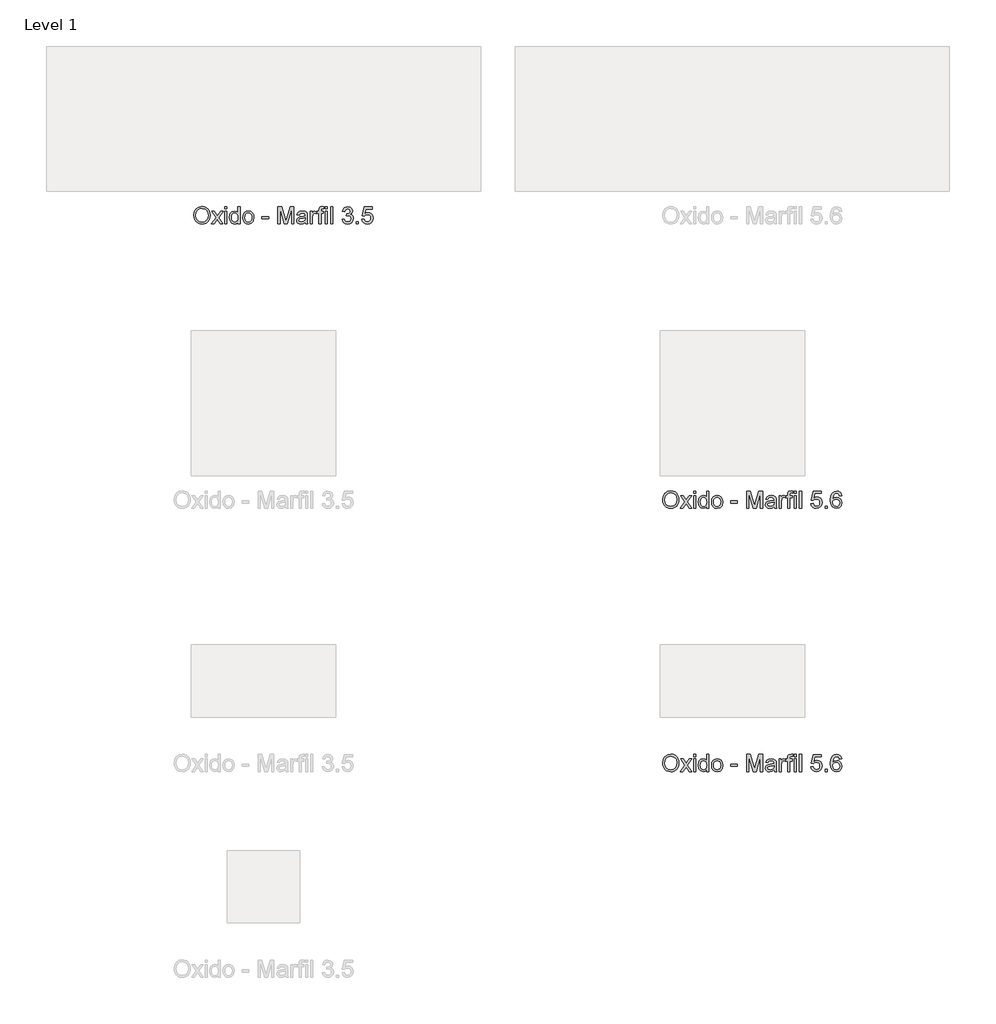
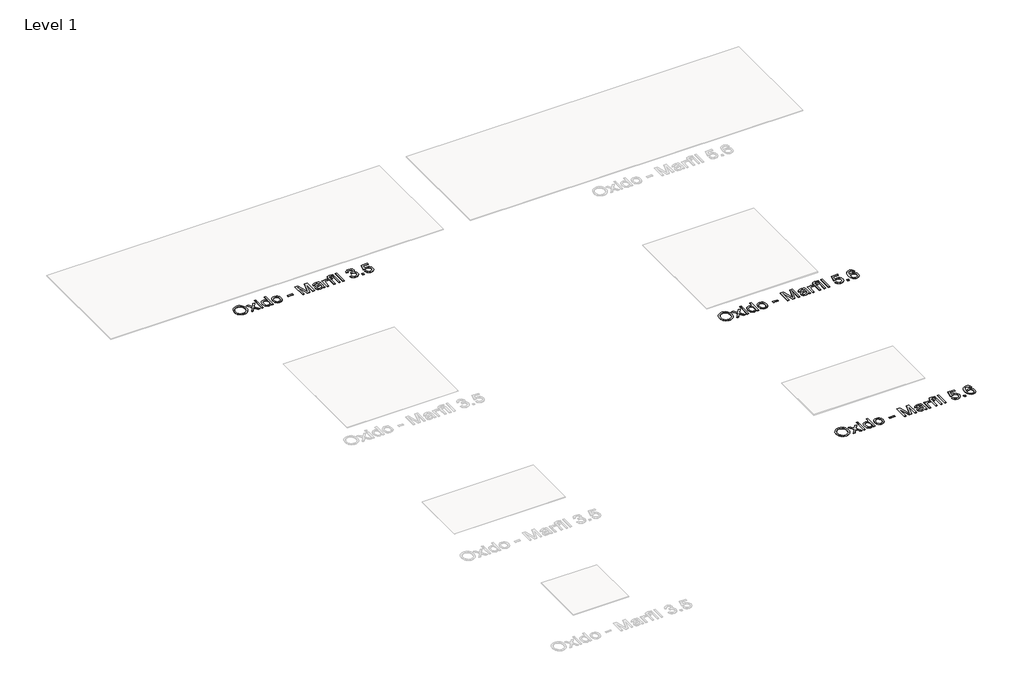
# One storey, part 30 of 80: 3 proxies.
"""IFC4 building model written with IfcOpenShell, lengths in millimetres."""

from ifc_helpers import new_model, si_unit, origin, origin_with_axes, place, context, project, spatial, polyline, outline, extrude, element, save

model = new_model("IFC4")

# Units and contexts
model_context = context("Model", 3, world=origin())
ifc_project = project(units=[si_unit("LENGTHUNIT", "METRE", prefix="MILLI")], contexts=[model_context])

# Site, building, storey
site = spatial("IfcSite", under=ifc_project)
building = spatial("IfcBuilding", under=site)
storey = spatial("IfcBuildingStorey", under=building, Name="Level 1", Elevation=0.0)

# Proxies
placement = place(None, origin())
element("IfcBuildingElementProxy", 1, Name="24\" Arial", ObjectType="24\" Arial", at=placement, inside=storey, context=model_context, shape_type="SweptSolid", body=[
    extrude(outline(polyline([(5052.6161998, -16597.3504862), (5056.5536998, -16571.2230824), (5068.3661998, -16551.4562555), (5086.4022575, -16539.0163516), (5109.0104306, -16534.869717), (5124.5080267, -16536.8168324), (5138.4046613, -16542.6581785), (5149.9431229, -16551.9826978), (5158.3661998, -16564.3793324), (5163.5152383, -16579.2495247), (5165.2315844, -16595.994717), (5163.425094, -16612.963467), (5158.0056229, -16628.0427939), (5149.2724498, -16640.4610632), (5137.5248536, -16649.4466401), (5123.7472094, -16654.8985632), (5108.9238921, -16656.7158709), (5093.1883152, -16654.7074574), (5079.2123536, -16648.682217), (5067.7027383, -16639.1846209), (5059.3661998, -16626.7591401), (5054.3036998, -16612.4622651), (5052.6161998, -16597.3504862)]), holes=[polyline([(5067.3854306, -16597.494717), (5070.3385556, -16615.9778901), (5079.1979306, -16630.0620247), (5092.5140363, -16638.9754862), (5108.8373536, -16641.9466401), (5125.3986517, -16638.9466401), (5138.7363921, -16629.9466401), (5147.5308633, -16615.4298132), (5150.4623536, -16595.8793324), (5145.4431229, -16571.5043324), (5139.2664402, -16562.2627459), (5130.7748536, -16555.3649093), (5109.096969, -16549.6389478), (5093.2099498, -16552.3973612), (5079.7027383, -16560.6726016), (5070.4647575, -16575.3949574), (5067.3854306, -16597.494717)])]), origin_with_axes(), (0.0, 0.0, 1.0), 2.0),
    extrude(outline(polyline([(5174.4623536, -16654.869717), (5206.0200459, -16611.2543324), (5176.3085075, -16568.1004862), (5194.0777383, -16568.1004862), (5208.4142767, -16588.869717), (5215.1065844, -16598.6774093), (5220.9046613, -16590.6581785), (5237.2315844, -16568.1004862), (5255.0008152, -16568.1004862), (5223.7892767, -16611.2543324), (5253.846969, -16654.869717), (5236.0777383, -16654.869717), (5217.9911998, -16628.6485632), (5214.6738921, -16623.8601016), (5192.2315844, -16654.869717), (5174.4623536, -16654.869717)])), origin_with_axes(), (0.0, 0.0, 1.0), 2.0),
    extrude(outline(polyline([(5266.7700459, -16551.4851016), (5266.7700459, -16536.7158709), (5281.5392767, -16536.7158709), (5281.5392767, -16551.4851016), (5266.7700459, -16551.4851016)])), origin_with_axes(), (0.0, 0.0, 1.0), 2.0),
    extrude(outline(polyline([(5266.7700459, -16654.869717), (5266.7700459, -16568.1004862), (5281.5392767, -16568.1004862), (5281.5392767, -16654.869717), (5266.7700459, -16654.869717)])), origin_with_axes(), (0.0, 0.0, 1.0), 2.0),
    extrude(outline(polyline([(5357.2315844, -16654.869717), (5357.2315844, -16640.9370247), (5347.4599498, -16652.7711593), (5333.9527383, -16656.7158709), (5315.6642767, -16651.0043324), (5302.7411998, -16635.0668324), (5298.1546613, -16611.5716401), (5302.3806229, -16588.0620247), (5307.659469, -16578.7375055), (5315.0440844, -16571.8793324), (5333.8950459, -16566.2543324), (5347.5104306, -16570.2783709), (5357.2315844, -16580.7351016), (5357.2315844, -16536.7158709), (5372.0008152, -16536.7158709), (5372.0008152, -16654.869717), (5357.2315844, -16654.869717)]), holes=[polyline([(5312.9238921, -16611.5139478), (5314.5897575, -16624.8733228), (5319.5873536, -16634.3745247), (5326.8493729, -16640.0536112), (5335.3085075, -16641.9466401), (5343.7640363, -16640.1401497), (5350.8421613, -16634.7206785), (5355.6342286, -16625.5872651), (5357.2315844, -16612.6389478), (5355.6053825, -16598.4826978), (5350.7267767, -16588.6677939), (5343.4683633, -16582.9346209), (5334.7027383, -16581.0235632), (5326.1570652, -16582.8588997), (5319.1546613, -16588.3649093), (5314.4815844, -16597.822842), (5312.9238921, -16611.5139478)])]), origin_with_axes(), (0.0, 0.0, 1.0), 2.0),
    extrude(outline(polyline([(5390.4623536, -16611.4851016), (5393.6570652, -16590.5644285), (5403.2411998, -16575.8601016), (5415.0825459, -16568.6557747), (5429.2604306, -16566.2543324), (5444.7760556, -16569.1786112), (5457.1690844, -16577.9514478), (5465.2928825, -16591.8805343), (5468.0008152, -16610.2735632), (5463.2123536, -16636.5524093), (5449.2652383, -16651.4226016), (5429.2604306, -16656.7158709), (5413.5573056, -16653.8024093), (5401.1786998, -16645.0620247), (5393.1414402, -16630.8408709), (5390.4623536, -16611.4851016)]), holes=[polyline([(5405.2315844, -16611.4562555), (5406.940719, -16624.822842), (5412.0681229, -16634.3456785), (5419.784469, -16640.0463997), (5429.2604306, -16641.9466401), (5438.6931229, -16640.0355824), (5446.3950459, -16634.3024093), (5451.5224498, -16624.6533709), (5453.2315844, -16610.994717), (5451.5116325, -16598.0175535), (5446.3517767, -16588.6245247), (5438.6390363, -16582.9238035), (5429.2604306, -16581.0235632), (5419.784469, -16582.916592), (5412.0681229, -16588.5956785), (5406.940719, -16598.0968805), (5405.2315844, -16611.4562555)])]), origin_with_axes(), (0.0, 0.0, 1.0), 2.0),
    extrude(outline(polyline([(5523.3854306, -16619.7927939), (5523.3854306, -16605.0235632), (5569.5392767, -16605.0235632), (5569.5392767, -16619.7927939), (5523.3854306, -16619.7927939)])), origin_with_axes(), (0.0, 0.0, 1.0), 2.0),
    extrude(outline(polyline([(5634.1546613, -16654.869717), (5634.1546613, -16536.7158709), (5659.5681229, -16536.7158709), (5683.7411998, -16619.994717), (5688.6161998, -16637.3889478), (5693.8950459, -16618.5524093), (5717.6642767, -16536.7158709), (5743.0777383, -16536.7158709), (5743.0777383, -16654.869717), (5728.3085075, -16654.869717), (5728.3085075, -16551.4851016), (5698.6258152, -16654.869717), (5678.6065844, -16654.869717), (5648.9238921, -16551.4851016), (5648.9238921, -16654.869717), (5634.1546613, -16654.869717)])), origin_with_axes(), (0.0, 0.0, 1.0), 2.0),
    extrude(outline(polyline([(5822.4623536, -16643.7927939), (5808.1402383, -16653.8024093), (5792.3181229, -16656.7158709), (5779.9755748, -16654.963467), (5770.8710075, -16649.7062555), (5765.2568248, -16641.7230824), (5763.3854306, -16631.7927939), (5766.2123536, -16620.1101016), (5773.6402383, -16611.6293324), (5783.9815844, -16606.7831785), (5796.7604306, -16604.5620247), (5822.3758152, -16599.4851016), (5822.4623536, -16596.1966401), (5818.3950459, -16585.2927939), (5802.0681229, -16581.0235632), (5787.1258152, -16583.8649093), (5780.0008152, -16593.9466401), (5765.2315844, -16592.1004862), (5771.6210075, -16577.6774093), (5784.4863921, -16569.2254862), (5803.971969, -16566.2543324), (5821.8710075, -16568.8793324), (5831.9815844, -16575.4706785), (5836.5104306, -16585.494717), (5837.2315844, -16598.4177939), (5837.2315844, -16616.7927939), (5837.9815844, -16642.4514478), (5840.9238921, -16654.869717), (5826.1546613, -16654.869717), (5822.4623536, -16643.7927939)]), holes=[polyline([(5822.4623536, -16614.2543324), (5798.6354306, -16618.7831785), (5785.9286998, -16621.1774093), (5780.1738921, -16625.0716401), (5778.1546613, -16630.7543324), (5782.5536998, -16638.744717), (5795.4623536, -16641.9466401), (5810.4046613, -16638.4129862), (5820.0392767, -16629.8601016), (5822.3758152, -16618.4370247), (5822.4623536, -16614.2543324)])]), origin_with_axes(), (0.0, 0.0, 1.0), 2.0),
    extrude(outline(polyline([(5857.5392767, -16654.869717), (5857.5392767, -16568.1004862), (5870.4623536, -16568.1004862), (5870.4623536, -16580.9370247), (5879.6354306, -16569.1101016), (5888.8661998, -16566.2543324), (5903.6931229, -16570.8120247), (5898.7604306, -16584.0524093), (5888.3758152, -16581.0235632), (5880.0248536, -16583.9370247), (5874.7027383, -16592.0139478), (5872.3085075, -16609.2639478), (5872.3085075, -16654.869717), (5857.5392767, -16654.869717)])), origin_with_axes(), (0.0, 0.0, 1.0), 2.0),
    extrude(outline(polyline([(5916.6161998, -16654.869717), (5916.6161998, -16582.869717), (5903.6931229, -16582.869717), (5903.6931229, -16568.1004862), (5916.6161998, -16568.1004862), (5916.6161998, -16559.3601016), (5918.1738921, -16547.0427939), (5925.7315844, -16538.244717), (5940.6161998, -16534.869717), (5954.0873536, -16536.4851016), (5951.9238921, -16550.3312555), (5943.4142767, -16549.6389478), (5934.1113921, -16552.0908709), (5931.3854306, -16561.2351016), (5931.3854306, -16568.1004862), (5948.0008152, -16568.1004862), (5948.0008152, -16582.869717), (5931.3854306, -16582.869717), (5931.3854306, -16654.869717), (5916.6161998, -16654.869717)])), origin_with_axes(), (0.0, 0.0, 1.0), 2.0),
    extrude(outline(polyline([(5960.9238921, -16551.4851016), (5960.9238921, -16536.7158709), (5975.6931229, -16536.7158709), (5975.6931229, -16551.4851016), (5960.9238921, -16551.4851016)])), origin_with_axes(), (0.0, 0.0, 1.0), 2.0),
    extrude(outline(polyline([(5960.9238921, -16654.869717), (5960.9238921, -16568.1004862), (5975.6931229, -16568.1004862), (5975.6931229, -16654.869717), (5960.9238921, -16654.869717)])), origin_with_axes(), (0.0, 0.0, 1.0), 2.0),
    extrude(outline(polyline([(5997.846969, -16654.869717), (5997.846969, -16536.7158709), (6012.6161998, -16536.7158709), (6012.6161998, -16654.869717), (5997.846969, -16654.869717)])), origin_with_axes(), (0.0, 0.0, 1.0), 2.0),
    extrude(outline(polyline([(6077.2315844, -16623.4851016), (6092.0008152, -16621.6389478), (6100.1498536, -16637.1870247), (6115.3950459, -16641.9466401), (6125.5200459, -16640.3096209), (6133.3373536, -16635.3985632), (6138.3349498, -16628.0716401), (6140.0008152, -16619.1870247), (6138.3493729, -16610.7531305), (6133.3950459, -16603.9129862), (6125.8950459, -16599.3805343), (6116.6065844, -16597.869717), (6106.2508152, -16599.4851016), (6107.8950459, -16584.7158709), (6110.2604306, -16584.8889478), (6127.0200459, -16580.6485632), (6132.6017767, -16575.2687555), (6134.4623536, -16567.6101016), (6129.0681229, -16556.057217), (6115.1642767, -16551.4851016), (6101.0873536, -16556.1004862), (6093.846969, -16569.9466401), (6079.0777383, -16568.1004862), (6083.4262959, -16554.838467), (6091.1642767, -16544.9370247), (6101.7508152, -16538.7711593), (6114.6450459, -16536.7158709), (6132.4575459, -16540.7687555), (6144.9190844, -16551.8456785), (6149.2315844, -16566.744717), (6145.1354306, -16580.3601016), (6133.0200459, -16590.1389478), (6142.2652383, -16593.8745247), (6149.1161998, -16600.2351016), (6153.3565844, -16608.8745247), (6154.7700459, -16619.4466401), (6151.9431229, -16633.8408709), (6143.4623536, -16645.869717), (6130.6618729, -16654.0043324), (6114.8758152, -16656.7158709), (6100.596969, -16654.400967), (6088.971969, -16647.4562555), (6080.8878344, -16636.8336593), (6077.2315844, -16623.4851016)])), origin_with_axes(), (0.0, 0.0, 1.0), 2.0),
    extrude(outline(polyline([(6175.0777383, -16654.869717), (6175.0777383, -16640.1004862), (6189.846969, -16640.1004862), (6189.846969, -16654.869717), (6175.0777383, -16654.869717)])), origin_with_axes(), (0.0, 0.0, 1.0), 2.0),
    extrude(outline(polyline([(6213.846969, -16623.4851016), (6228.6161998, -16621.6389478), (6236.0585075, -16636.8552939), (6251.4911998, -16641.9466401), (6262.0777383, -16640.1762074), (6270.0104306, -16634.8649093), (6274.9647575, -16626.6257266), (6276.6161998, -16616.0716401), (6275.0693248, -16606.1341401), (6270.4286998, -16598.5331785), (6262.6582671, -16593.7086593), (6251.721969, -16592.1004862), (6238.7556229, -16594.6677939), (6230.4623536, -16601.3312555), (6215.6931229, -16599.4851016), (6228.6161998, -16538.5620247), (6285.846969, -16538.5620247), (6285.846969, -16553.3312555), (6240.5585075, -16553.3312555), (6234.2411998, -16585.869717), (6244.7916806, -16579.4658709), (6255.846969, -16577.3312555), (6269.6462479, -16579.9778901), (6281.1017767, -16587.9177939), (6288.8145171, -16600.0187555), (6291.3854306, -16615.1485632), (6289.0705267, -16629.9177939), (6282.1258152, -16642.5524093), (6268.8277383, -16653.1750055), (6251.4335075, -16656.7158709), (6236.9274979, -16654.4406305), (6225.3710075, -16647.6149093), (6217.4491325, -16637.0319766), (6213.846969, -16623.4851016)])), origin_with_axes(), (0.0, 0.0, 1.0), 2.0),
])
element("IfcBuildingElementProxy", 2, Name="24\" Arial", ObjectType="24\" Arial", at=placement, inside=storey, context=model_context, shape_type="SweptSolid", body=[
    extrude(outline(polyline([(8292.6161998, -18562.677529), (8296.5536998, -18536.5501252), (8308.3661998, -18516.7832983), (8326.4022575, -18504.3433944), (8349.0104306, -18500.1967598), (8364.5080267, -18502.1438752), (8378.4046613, -18507.9852213), (8389.9431229, -18517.3097406), (8398.3661998, -18529.7063752), (8403.5152383, -18544.5765675), (8405.2315844, -18561.3217598), (8403.425094, -18578.2905098), (8398.0056229, -18593.3698367), (8389.2724498, -18605.788106), (8377.5248536, -18614.7736829), (8363.7472094, -18620.225606), (8348.9238921, -18622.0429137), (8333.1883152, -18620.0345002), (8319.2123536, -18614.0092598), (8307.7027383, -18604.5116637), (8299.3661998, -18592.0861829), (8294.3036998, -18577.7893079), (8292.6161998, -18562.677529)]), holes=[polyline([(8307.3854306, -18562.8217598), (8310.3385556, -18581.3049329), (8319.1979306, -18595.3890675), (8332.5140363, -18604.302529), (8348.8373536, -18607.2736829), (8365.3986517, -18604.2736829), (8378.7363921, -18595.2736829), (8387.5308633, -18580.756856), (8390.4623536, -18561.2063752), (8385.4431229, -18536.8313752), (8379.2664402, -18527.5897887), (8370.7748536, -18520.6919521), (8349.096969, -18514.9659906), (8333.2099498, -18517.724404), (8319.7027383, -18525.9996444), (8310.4647575, -18540.7220002), (8307.3854306, -18562.8217598)])]), origin_with_axes(), (0.0, 0.0, 1.0), 2.0),
    extrude(outline(polyline([(8414.4623536, -18620.1967598), (8446.0200459, -18576.5813752), (8416.3085075, -18533.427529), (8434.0777383, -18533.427529), (8448.4142767, -18554.1967598), (8455.1065844, -18564.0044521), (8460.9046613, -18555.9852213), (8477.2315844, -18533.427529), (8495.0008152, -18533.427529), (8463.7892767, -18576.5813752), (8493.846969, -18620.1967598), (8476.0777383, -18620.1967598), (8457.9911998, -18593.975606), (8454.6738921, -18589.1871444), (8432.2315844, -18620.1967598), (8414.4623536, -18620.1967598)])), origin_with_axes(), (0.0, 0.0, 1.0), 2.0),
    extrude(outline(polyline([(8506.7700459, -18516.8121444), (8506.7700459, -18502.0429137), (8521.5392767, -18502.0429137), (8521.5392767, -18516.8121444), (8506.7700459, -18516.8121444)])), origin_with_axes(), (0.0, 0.0, 1.0), 2.0),
    extrude(outline(polyline([(8506.7700459, -18620.1967598), (8506.7700459, -18533.427529), (8521.5392767, -18533.427529), (8521.5392767, -18620.1967598), (8506.7700459, -18620.1967598)])), origin_with_axes(), (0.0, 0.0, 1.0), 2.0),
    extrude(outline(polyline([(8597.2315844, -18620.1967598), (8597.2315844, -18606.2640675), (8587.4599498, -18618.0982021), (8573.9527383, -18622.0429137), (8555.6642767, -18616.3313752), (8542.7411998, -18600.3938752), (8538.1546613, -18576.8986829), (8542.3806229, -18553.3890675), (8547.659469, -18544.0645483), (8555.0440844, -18537.2063752), (8573.8950459, -18531.5813752), (8587.5104306, -18535.6054137), (8597.2315844, -18546.0621444), (8597.2315844, -18502.0429137), (8612.0008152, -18502.0429137), (8612.0008152, -18620.1967598), (8597.2315844, -18620.1967598)]), holes=[polyline([(8552.9238921, -18576.8409906), (8554.5897575, -18590.2003656), (8559.5873536, -18599.7015675), (8566.8493729, -18605.380654), (8575.3085075, -18607.2736829), (8583.7640363, -18605.4671925), (8590.8421613, -18600.0477213), (8595.6342286, -18590.9143079), (8597.2315844, -18577.9659906), (8595.6053825, -18563.8097406), (8590.7267767, -18553.9948367), (8583.4683633, -18548.2616637), (8574.7027383, -18546.350606), (8566.1570652, -18548.1859425), (8559.1546613, -18553.6919521), (8554.4815844, -18563.1498848), (8552.9238921, -18576.8409906)])]), origin_with_axes(), (0.0, 0.0, 1.0), 2.0),
    extrude(outline(polyline([(8630.4623536, -18576.8121444), (8633.6570652, -18555.8914713), (8643.2411998, -18541.1871444), (8655.0825459, -18533.9828175), (8669.2604306, -18531.5813752), (8684.7760556, -18534.505654), (8697.1690844, -18543.2784906), (8705.2928825, -18557.2075771), (8708.0008152, -18575.600606), (8703.2123536, -18601.8794521), (8689.2652383, -18616.7496444), (8669.2604306, -18622.0429137), (8653.5573056, -18619.1294521), (8641.1786998, -18610.3890675), (8633.1414402, -18596.1679137), (8630.4623536, -18576.8121444)]), holes=[polyline([(8645.2315844, -18576.7832983), (8646.940719, -18590.1498848), (8652.0681229, -18599.6727213), (8659.784469, -18605.3734425), (8669.2604306, -18607.2736829), (8678.6931229, -18605.3626252), (8686.3950459, -18599.6294521), (8691.5224498, -18589.9804137), (8693.2315844, -18576.3217598), (8691.5116325, -18563.3445963), (8686.3517767, -18553.9515675), (8678.6390363, -18548.2508463), (8669.2604306, -18546.350606), (8659.784469, -18548.2436348), (8652.0681229, -18553.9227213), (8646.940719, -18563.4239233), (8645.2315844, -18576.7832983)])]), origin_with_axes(), (0.0, 0.0, 1.0), 2.0),
    extrude(outline(polyline([(8763.3854306, -18585.1198367), (8763.3854306, -18570.350606), (8809.5392767, -18570.350606), (8809.5392767, -18585.1198367), (8763.3854306, -18585.1198367)])), origin_with_axes(), (0.0, 0.0, 1.0), 2.0),
    extrude(outline(polyline([(8874.1546613, -18620.1967598), (8874.1546613, -18502.0429137), (8899.5681229, -18502.0429137), (8923.7411998, -18585.3217598), (8928.6161998, -18602.7159906), (8933.8950459, -18583.8794521), (8957.6642767, -18502.0429137), (8983.0777383, -18502.0429137), (8983.0777383, -18620.1967598), (8968.3085075, -18620.1967598), (8968.3085075, -18516.8121444), (8938.6258152, -18620.1967598), (8918.6065844, -18620.1967598), (8888.9238921, -18516.8121444), (8888.9238921, -18620.1967598), (8874.1546613, -18620.1967598)])), origin_with_axes(), (0.0, 0.0, 1.0), 2.0),
    extrude(outline(polyline([(9062.4623536, -18609.1198367), (9048.1402383, -18619.1294521), (9032.3181229, -18622.0429137), (9019.9755748, -18620.2905098), (9010.8710075, -18615.0332983), (9005.2568248, -18607.0501252), (9003.3854306, -18597.1198367), (9006.2123536, -18585.4371444), (9013.6402383, -18576.9563752), (9023.9815844, -18572.1102213), (9036.7604306, -18569.8890675), (9062.3758152, -18564.8121444), (9062.4623536, -18561.5236829), (9058.3950459, -18550.6198367), (9042.0681229, -18546.350606), (9027.1258152, -18549.1919521), (9020.0008152, -18559.2736829), (9005.2315844, -18557.427529), (9011.6210075, -18543.0044521), (9024.4863921, -18534.552529), (9043.971969, -18531.5813752), (9061.8710075, -18534.2063752), (9071.9815844, -18540.7977213), (9076.5104306, -18550.8217598), (9077.2315844, -18563.7448367), (9077.2315844, -18582.1198367), (9077.9815844, -18607.7784906), (9080.9238921, -18620.1967598), (9066.1546613, -18620.1967598), (9062.4623536, -18609.1198367)]), holes=[polyline([(9062.4623536, -18579.5813752), (9038.6354306, -18584.1102213), (9025.9286998, -18586.5044521), (9020.1738921, -18590.3986829), (9018.1546613, -18596.0813752), (9022.5536998, -18604.0717598), (9035.4623536, -18607.2736829), (9050.4046613, -18603.740029), (9060.0392767, -18595.1871444), (9062.3758152, -18583.7640675), (9062.4623536, -18579.5813752)])]), origin_with_axes(), (0.0, 0.0, 1.0), 2.0),
    extrude(outline(polyline([(9097.5392767, -18620.1967598), (9097.5392767, -18533.427529), (9110.4623536, -18533.427529), (9110.4623536, -18546.2640675), (9119.6354306, -18534.4371444), (9128.8661998, -18531.5813752), (9143.6931229, -18536.1390675), (9138.7604306, -18549.3794521), (9128.3758152, -18546.350606), (9120.0248536, -18549.2640675), (9114.7027383, -18557.3409906), (9112.3085075, -18574.5909906), (9112.3085075, -18620.1967598), (9097.5392767, -18620.1967598)])), origin_with_axes(), (0.0, 0.0, 1.0), 2.0),
    extrude(outline(polyline([(9156.6161998, -18620.1967598), (9156.6161998, -18548.1967598), (9143.6931229, -18548.1967598), (9143.6931229, -18533.427529), (9156.6161998, -18533.427529), (9156.6161998, -18524.6871444), (9158.1738921, -18512.3698367), (9165.7315844, -18503.5717598), (9180.6161998, -18500.1967598), (9194.0873536, -18501.8121444), (9191.9238921, -18515.6582983), (9183.4142767, -18514.9659906), (9174.1113921, -18517.4179137), (9171.3854306, -18526.5621444), (9171.3854306, -18533.427529), (9188.0008152, -18533.427529), (9188.0008152, -18548.1967598), (9171.3854306, -18548.1967598), (9171.3854306, -18620.1967598), (9156.6161998, -18620.1967598)])), origin_with_axes(), (0.0, 0.0, 1.0), 2.0),
    extrude(outline(polyline([(9200.9238921, -18516.8121444), (9200.9238921, -18502.0429137), (9215.6931229, -18502.0429137), (9215.6931229, -18516.8121444), (9200.9238921, -18516.8121444)])), origin_with_axes(), (0.0, 0.0, 1.0), 2.0),
    extrude(outline(polyline([(9200.9238921, -18620.1967598), (9200.9238921, -18533.427529), (9215.6931229, -18533.427529), (9215.6931229, -18620.1967598), (9200.9238921, -18620.1967598)])), origin_with_axes(), (0.0, 0.0, 1.0), 2.0),
    extrude(outline(polyline([(9237.846969, -18620.1967598), (9237.846969, -18502.0429137), (9252.6161998, -18502.0429137), (9252.6161998, -18620.1967598), (9237.846969, -18620.1967598)])), origin_with_axes(), (0.0, 0.0, 1.0), 2.0),
    extrude(outline(polyline([(9317.2315844, -18588.8121444), (9332.0008152, -18586.9659906), (9339.4431229, -18602.1823367), (9354.8758152, -18607.2736829), (9365.4623536, -18605.5032502), (9373.3950459, -18600.1919521), (9378.3493729, -18591.9527694), (9380.0008152, -18581.3986829), (9378.4539402, -18571.4611829), (9373.8133152, -18563.8602213), (9366.0428825, -18559.0357021), (9355.1065844, -18557.427529), (9342.1402383, -18559.9948367), (9333.846969, -18566.6582983), (9319.0777383, -18564.8121444), (9332.0008152, -18503.8890675), (9389.2315844, -18503.8890675), (9389.2315844, -18518.6582983), (9343.9431229, -18518.6582983), (9337.6258152, -18551.1967598), (9348.1762959, -18544.7929137), (9359.2315844, -18542.6582983), (9373.0308633, -18545.3049329), (9384.4863921, -18553.2448367), (9392.1991325, -18565.3457983), (9394.7700459, -18580.475606), (9392.4551421, -18595.2448367), (9385.5104306, -18607.8794521), (9372.2123536, -18618.5020483), (9354.8181229, -18622.0429137), (9340.3121133, -18619.7676733), (9328.7556229, -18612.9419521), (9320.8337479, -18602.3590194), (9317.2315844, -18588.8121444)])), origin_with_axes(), (0.0, 0.0, 1.0), 2.0),
    extrude(outline(polyline([(9415.0777383, -18620.1967598), (9415.0777383, -18605.427529), (9429.846969, -18605.427529), (9429.846969, -18620.1967598), (9415.0777383, -18620.1967598)])), origin_with_axes(), (0.0, 0.0, 1.0), 2.0),
    extrude(outline(polyline([(9529.5392767, -18533.427529), (9514.7700459, -18535.2736829), (9509.1738921, -18522.9563752), (9502.4743729, -18518.3482021), (9494.3758152, -18516.8121444), (9481.0488921, -18520.3890675), (9470.9671613, -18533.8169521), (9466.7700459, -18560.1390675), (9479.7940844, -18548.3554137), (9495.9335075, -18544.5044521), (9509.5777383, -18547.1366637), (9521.0296613, -18555.0332983), (9528.7964883, -18567.0982021), (9531.3854306, -18582.2352213), (9526.5104306, -18602.615029), (9513.096969, -18617.038106), (9493.7411998, -18622.0429137), (9476.9851902, -18618.725606), (9463.6402383, -18608.7736829), (9454.9106709, -18591.2063752), (9452.0008152, -18565.0429137), (9455.2315844, -18535.6270483), (9464.9238921, -18515.5140675), (9478.1570652, -18505.4107021), (9495.2988921, -18502.0429137), (9508.2580267, -18504.1270483), (9518.6354306, -18510.3794521), (9525.9046613, -18520.3097406), (9529.5392767, -18533.427529)]), holes=[polyline([(9466.7700459, -18582.0044521), (9470.1883152, -18594.7977213), (9479.2748536, -18604.0861829), (9492.5873536, -18607.2736829), (9502.3337479, -18605.6222406), (9509.9960075, -18600.6679137), (9514.9611517, -18592.8794521), (9516.6161998, -18582.725606), (9514.9827863, -18572.9792117), (9510.0825459, -18565.5477213), (9502.2904786, -18560.8421925), (9491.9815844, -18559.2736829), (9482.2496133, -18560.8421925), (9474.1113921, -18565.5477213), (9468.6053825, -18572.7989233), (9466.7700459, -18582.0044521)])]), origin_with_axes(), (0.0, 0.0, 1.0), 2.0),
])
element("IfcBuildingElementProxy", 3, Name="24\" Arial", ObjectType="24\" Arial", at=placement, inside=storey, context=model_context, shape_type="SweptSolid", body=[
    extrude(outline(polyline([(8292.6161998, -20382.6920446), (8296.5536998, -20356.5646408), (8308.3661998, -20336.7978138), (8326.4022575, -20324.35791), (8349.0104306, -20320.2112754), (8364.5080267, -20322.1583908), (8378.4046613, -20327.9997369), (8389.9431229, -20337.3242561), (8398.3661998, -20349.7208908), (8403.5152383, -20364.5910831), (8405.2315844, -20381.3362754), (8403.425094, -20398.3050254), (8398.0056229, -20413.3843523), (8389.2724498, -20425.8026215), (8377.5248536, -20434.7881985), (8363.7472094, -20440.2401215), (8348.9238921, -20442.0574292), (8333.1883152, -20440.0490158), (8319.2123536, -20434.0237754), (8307.7027383, -20424.5261792), (8299.3661998, -20412.1006985), (8294.3036998, -20397.8038235), (8292.6161998, -20382.6920446)]), holes=[polyline([(8307.3854306, -20382.8362754), (8310.3385556, -20401.3194485), (8319.1979306, -20415.4035831), (8332.5140363, -20424.3170446), (8348.8373536, -20427.2881985), (8365.3986517, -20424.2881985), (8378.7363921, -20415.2881985), (8387.5308633, -20400.7713715), (8390.4623536, -20381.2208908), (8385.4431229, -20356.8458908), (8379.2664402, -20347.6043042), (8370.7748536, -20340.7064677), (8349.096969, -20334.9805061), (8333.2099498, -20337.7389196), (8319.7027383, -20346.01416), (8310.4647575, -20360.7365158), (8307.3854306, -20382.8362754)])]), origin_with_axes(), (0.0, 0.0, 1.0), 2.0),
    extrude(outline(polyline([(8414.4623536, -20440.2112754), (8446.0200459, -20396.5958908), (8416.3085075, -20353.4420446), (8434.0777383, -20353.4420446), (8448.4142767, -20374.2112754), (8455.1065844, -20384.0189677), (8460.9046613, -20375.9997369), (8477.2315844, -20353.4420446), (8495.0008152, -20353.4420446), (8463.7892767, -20396.5958908), (8493.846969, -20440.2112754), (8476.0777383, -20440.2112754), (8457.9911998, -20413.9901215), (8454.6738921, -20409.20166), (8432.2315844, -20440.2112754), (8414.4623536, -20440.2112754)])), origin_with_axes(), (0.0, 0.0, 1.0), 2.0),
    extrude(outline(polyline([(8506.7700459, -20336.82666), (8506.7700459, -20322.0574292), (8521.5392767, -20322.0574292), (8521.5392767, -20336.82666), (8506.7700459, -20336.82666)])), origin_with_axes(), (0.0, 0.0, 1.0), 2.0),
    extrude(outline(polyline([(8506.7700459, -20440.2112754), (8506.7700459, -20353.4420446), (8521.5392767, -20353.4420446), (8521.5392767, -20440.2112754), (8506.7700459, -20440.2112754)])), origin_with_axes(), (0.0, 0.0, 1.0), 2.0),
    extrude(outline(polyline([(8597.2315844, -20440.2112754), (8597.2315844, -20426.2785831), (8587.4599498, -20438.1127177), (8573.9527383, -20442.0574292), (8555.6642767, -20436.3458908), (8542.7411998, -20420.4083908), (8538.1546613, -20396.9131985), (8542.3806229, -20373.4035831), (8547.659469, -20364.0790638), (8555.0440844, -20357.2208908), (8573.8950459, -20351.5958908), (8587.5104306, -20355.6199292), (8597.2315844, -20366.07666), (8597.2315844, -20322.0574292), (8612.0008152, -20322.0574292), (8612.0008152, -20440.2112754), (8597.2315844, -20440.2112754)]), holes=[polyline([(8552.9238921, -20396.8555061), (8554.5897575, -20410.2148811), (8559.5873536, -20419.7160831), (8566.8493729, -20425.3951696), (8575.3085075, -20427.2881985), (8583.7640363, -20425.4817081), (8590.8421613, -20420.0622369), (8595.6342286, -20410.9288235), (8597.2315844, -20397.9805061), (8595.6053825, -20383.8242561), (8590.7267767, -20374.0093523), (8583.4683633, -20368.2761792), (8574.7027383, -20366.3651215), (8566.1570652, -20368.2004581), (8559.1546613, -20373.7064677), (8554.4815844, -20383.1644004), (8552.9238921, -20396.8555061)])]), origin_with_axes(), (0.0, 0.0, 1.0), 2.0),
    extrude(outline(polyline([(8630.4623536, -20396.82666), (8633.6570652, -20375.9059869), (8643.2411998, -20361.20166), (8655.0825459, -20353.9973331), (8669.2604306, -20351.5958908), (8684.7760556, -20354.5201696), (8697.1690844, -20363.2930061), (8705.2928825, -20377.2220927), (8708.0008152, -20395.6151215), (8703.2123536, -20421.8939677), (8689.2652383, -20436.76416), (8669.2604306, -20442.0574292), (8653.5573056, -20439.1439677), (8641.1786998, -20430.4035831), (8633.1414402, -20416.1824292), (8630.4623536, -20396.82666)]), holes=[polyline([(8645.2315844, -20396.7978138), (8646.940719, -20410.1644004), (8652.0681229, -20419.6872369), (8659.784469, -20425.3879581), (8669.2604306, -20427.2881985), (8678.6931229, -20425.3771408), (8686.3950459, -20419.6439677), (8691.5224498, -20409.9949292), (8693.2315844, -20396.3362754), (8691.5116325, -20383.3591119), (8686.3517767, -20373.9660831), (8678.6390363, -20368.2653619), (8669.2604306, -20366.3651215), (8659.784469, -20368.2581504), (8652.0681229, -20373.9372369), (8646.940719, -20383.4384388), (8645.2315844, -20396.7978138)])]), origin_with_axes(), (0.0, 0.0, 1.0), 2.0),
    extrude(outline(polyline([(8763.3854306, -20405.1343523), (8763.3854306, -20390.3651215), (8809.5392767, -20390.3651215), (8809.5392767, -20405.1343523), (8763.3854306, -20405.1343523)])), origin_with_axes(), (0.0, 0.0, 1.0), 2.0),
    extrude(outline(polyline([(8874.1546613, -20440.2112754), (8874.1546613, -20322.0574292), (8899.5681229, -20322.0574292), (8923.7411998, -20405.3362754), (8928.6161998, -20422.7305061), (8933.8950459, -20403.8939677), (8957.6642767, -20322.0574292), (8983.0777383, -20322.0574292), (8983.0777383, -20440.2112754), (8968.3085075, -20440.2112754), (8968.3085075, -20336.82666), (8938.6258152, -20440.2112754), (8918.6065844, -20440.2112754), (8888.9238921, -20336.82666), (8888.9238921, -20440.2112754), (8874.1546613, -20440.2112754)])), origin_with_axes(), (0.0, 0.0, 1.0), 2.0),
    extrude(outline(polyline([(9062.4623536, -20429.1343523), (9048.1402383, -20439.1439677), (9032.3181229, -20442.0574292), (9019.9755748, -20440.3050254), (9010.8710075, -20435.0478138), (9005.2568248, -20427.0646408), (9003.3854306, -20417.1343523), (9006.2123536, -20405.45166), (9013.6402383, -20396.9708908), (9023.9815844, -20392.1247369), (9036.7604306, -20389.9035831), (9062.3758152, -20384.82666), (9062.4623536, -20381.5381985), (9058.3950459, -20370.6343523), (9042.0681229, -20366.3651215), (9027.1258152, -20369.2064677), (9020.0008152, -20379.2881985), (9005.2315844, -20377.4420446), (9011.6210075, -20363.0189677), (9024.4863921, -20354.5670446), (9043.971969, -20351.5958908), (9061.8710075, -20354.2208908), (9071.9815844, -20360.8122369), (9076.5104306, -20370.8362754), (9077.2315844, -20383.7593523), (9077.2315844, -20402.1343523), (9077.9815844, -20427.7930061), (9080.9238921, -20440.2112754), (9066.1546613, -20440.2112754), (9062.4623536, -20429.1343523)]), holes=[polyline([(9062.4623536, -20399.5958908), (9038.6354306, -20404.1247369), (9025.9286998, -20406.5189677), (9020.1738921, -20410.4131985), (9018.1546613, -20416.0958908), (9022.5536998, -20424.0862754), (9035.4623536, -20427.2881985), (9050.4046613, -20423.7545446), (9060.0392767, -20415.20166), (9062.3758152, -20403.7785831), (9062.4623536, -20399.5958908)])]), origin_with_axes(), (0.0, 0.0, 1.0), 2.0),
    extrude(outline(polyline([(9097.5392767, -20440.2112754), (9097.5392767, -20353.4420446), (9110.4623536, -20353.4420446), (9110.4623536, -20366.2785831), (9119.6354306, -20354.45166), (9128.8661998, -20351.5958908), (9143.6931229, -20356.1535831), (9138.7604306, -20369.3939677), (9128.3758152, -20366.3651215), (9120.0248536, -20369.2785831), (9114.7027383, -20377.3555061), (9112.3085075, -20394.6055061), (9112.3085075, -20440.2112754), (9097.5392767, -20440.2112754)])), origin_with_axes(), (0.0, 0.0, 1.0), 2.0),
    extrude(outline(polyline([(9156.6161998, -20440.2112754), (9156.6161998, -20368.2112754), (9143.6931229, -20368.2112754), (9143.6931229, -20353.4420446), (9156.6161998, -20353.4420446), (9156.6161998, -20344.70166), (9158.1738921, -20332.3843523), (9165.7315844, -20323.5862754), (9180.6161998, -20320.2112754), (9194.0873536, -20321.82666), (9191.9238921, -20335.6728138), (9183.4142767, -20334.9805061), (9174.1113921, -20337.4324292), (9171.3854306, -20346.57666), (9171.3854306, -20353.4420446), (9188.0008152, -20353.4420446), (9188.0008152, -20368.2112754), (9171.3854306, -20368.2112754), (9171.3854306, -20440.2112754), (9156.6161998, -20440.2112754)])), origin_with_axes(), (0.0, 0.0, 1.0), 2.0),
    extrude(outline(polyline([(9200.9238921, -20336.82666), (9200.9238921, -20322.0574292), (9215.6931229, -20322.0574292), (9215.6931229, -20336.82666), (9200.9238921, -20336.82666)])), origin_with_axes(), (0.0, 0.0, 1.0), 2.0),
    extrude(outline(polyline([(9200.9238921, -20440.2112754), (9200.9238921, -20353.4420446), (9215.6931229, -20353.4420446), (9215.6931229, -20440.2112754), (9200.9238921, -20440.2112754)])), origin_with_axes(), (0.0, 0.0, 1.0), 2.0),
    extrude(outline(polyline([(9237.846969, -20440.2112754), (9237.846969, -20322.0574292), (9252.6161998, -20322.0574292), (9252.6161998, -20440.2112754), (9237.846969, -20440.2112754)])), origin_with_axes(), (0.0, 0.0, 1.0), 2.0),
    extrude(outline(polyline([(9317.2315844, -20408.82666), (9332.0008152, -20406.9805061), (9339.4431229, -20422.1968523), (9354.8758152, -20427.2881985), (9365.4623536, -20425.5177658), (9373.3950459, -20420.2064677), (9378.3493729, -20411.967285), (9380.0008152, -20401.4131985), (9378.4539402, -20391.4756985), (9373.8133152, -20383.8747369), (9366.0428825, -20379.0502177), (9355.1065844, -20377.4420446), (9342.1402383, -20380.0093523), (9333.846969, -20386.6728138), (9319.0777383, -20384.82666), (9332.0008152, -20323.9035831), (9389.2315844, -20323.9035831), (9389.2315844, -20338.6728138), (9343.9431229, -20338.6728138), (9337.6258152, -20371.2112754), (9348.1762959, -20364.8074292), (9359.2315844, -20362.6728138), (9373.0308633, -20365.3194485), (9384.4863921, -20373.2593523), (9392.1991325, -20385.3603138), (9394.7700459, -20400.4901215), (9392.4551421, -20415.2593523), (9385.5104306, -20427.8939677), (9372.2123536, -20438.5165638), (9354.8181229, -20442.0574292), (9340.3121133, -20439.7821888), (9328.7556229, -20432.9564677), (9320.8337479, -20422.373535), (9317.2315844, -20408.82666)])), origin_with_axes(), (0.0, 0.0, 1.0), 2.0),
    extrude(outline(polyline([(9415.0777383, -20440.2112754), (9415.0777383, -20425.4420446), (9429.846969, -20425.4420446), (9429.846969, -20440.2112754), (9415.0777383, -20440.2112754)])), origin_with_axes(), (0.0, 0.0, 1.0), 2.0),
    extrude(outline(polyline([(9529.5392767, -20353.4420446), (9514.7700459, -20355.2881985), (9509.1738921, -20342.9708908), (9502.4743729, -20338.3627177), (9494.3758152, -20336.82666), (9481.0488921, -20340.4035831), (9470.9671613, -20353.8314677), (9466.7700459, -20380.1535831), (9479.7940844, -20368.3699292), (9495.9335075, -20364.5189677), (9509.5777383, -20367.1511792), (9521.0296613, -20375.0478138), (9528.7964883, -20387.1127177), (9531.3854306, -20402.2497369), (9526.5104306, -20422.6295446), (9513.096969, -20437.0526215), (9493.7411998, -20442.0574292), (9476.9851902, -20438.7401215), (9463.6402383, -20428.7881985), (9454.9106709, -20411.2208908), (9452.0008152, -20385.0574292), (9455.2315844, -20355.6415638), (9464.9238921, -20335.5285831), (9478.1570652, -20325.4252177), (9495.2988921, -20322.0574292), (9508.2580267, -20324.1415638), (9518.6354306, -20330.3939677), (9525.9046613, -20340.3242561), (9529.5392767, -20353.4420446)]), holes=[polyline([(9466.7700459, -20402.0189677), (9470.1883152, -20414.8122369), (9479.2748536, -20424.1006985), (9492.5873536, -20427.2881985), (9502.3337479, -20425.6367561), (9509.9960075, -20420.6824292), (9514.9611517, -20412.8939677), (9516.6161998, -20402.7401215), (9514.9827863, -20392.9937273), (9510.0825459, -20385.5622369), (9502.2904786, -20380.8567081), (9491.9815844, -20379.2881985), (9482.2496133, -20380.8567081), (9474.1113921, -20385.5622369), (9468.6053825, -20392.8134388), (9466.7700459, -20402.0189677)])]), origin_with_axes(), (0.0, 0.0, 1.0), 2.0),
])

save(model, "model.ifc")
